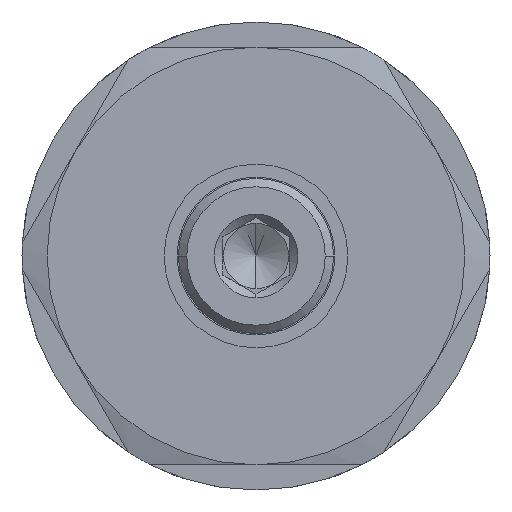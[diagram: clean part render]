
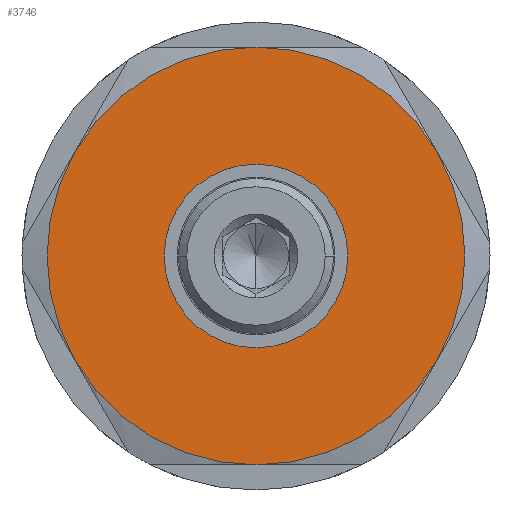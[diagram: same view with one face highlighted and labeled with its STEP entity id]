
A CAD part, left-side view. The second image highlights one B-rep face of the part: STEP entity #3746.
In plain terms, the highlighted planar face has unit normal (-1, 0, 0).
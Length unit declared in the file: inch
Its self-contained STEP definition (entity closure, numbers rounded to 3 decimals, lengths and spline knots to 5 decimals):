
#2583=CARTESIAN_POINT('',(-0.30503,0.21975,2.69497));
#2584=VERTEX_POINT('',#2583);
#2593=CARTESIAN_POINT('',(-0.30503,-0.21975,2.69497));
#2594=VERTEX_POINT('',#2593);
#2595=CARTESIAN_POINT('',(-0.30503,0.,2.69497));
#2596=DIRECTION('',(1.0,0.0,0.0));
#2597=DIRECTION('',(0.0,1.0,0.0));
#2598=AXIS2_PLACEMENT_3D('',#2595,#2596,#2597);
#2599=CIRCLE('',#2598,0.21975);
#2600=EDGE_CURVE('',#2594,#2584,#2599,.T.);
#3671=CARTESIAN_POINT('',(-0.30503,0.,2.69497));
#3672=DIRECTION('',(1.0,0.0,0.0));
#3673=DIRECTION('',(0.0,1.0,0.0));
#3674=AXIS2_PLACEMENT_3D('',#3671,#3672,#3673);
#3675=CIRCLE('',#3674,0.21975);
#3676=EDGE_CURVE('',#2584,#2594,#3675,.T.);
#3681=CARTESIAN_POINT('',(-0.30503,0.,2.69497));
#3682=DIRECTION('',(-1.0,0.0,0.0));
#3683=DIRECTION('',(0.0,0.0,1.0));
#3684=AXIS2_PLACEMENT_3D('',#3681,#3682,#3683);
#3685=PLANE('',#3684);
#3686=CARTESIAN_POINT('',(-0.30503,-0.43301,2.94497));
#3687=VERTEX_POINT('',#3686);
#3688=CARTESIAN_POINT('',(-0.30503,0.,3.19497));
#3689=VERTEX_POINT('',#3688);
#3690=CARTESIAN_POINT('',(-0.30503,0.,2.69497));
#3691=DIRECTION('',(-1.0,0.0,0.0));
#3692=DIRECTION('',(0.0,0.0,-1.0));
#3693=AXIS2_PLACEMENT_3D('',#3690,#3691,#3692);
#3694=CIRCLE('',#3693,0.5);
#3695=EDGE_CURVE('',#3687,#3689,#3694,.T.);
#3696=ORIENTED_EDGE('',*,*,#3695,.T.);
#3697=CARTESIAN_POINT('',(-0.30503,0.43301,2.94497));
#3698=VERTEX_POINT('',#3697);
#3699=CARTESIAN_POINT('',(-0.30503,0.,2.69497));
#3700=DIRECTION('',(-1.0,0.0,0.0));
#3701=DIRECTION('',(0.0,0.0,-1.0));
#3702=AXIS2_PLACEMENT_3D('',#3699,#3700,#3701);
#3703=CIRCLE('',#3702,0.5);
#3704=EDGE_CURVE('',#3689,#3698,#3703,.T.);
#3705=ORIENTED_EDGE('',*,*,#3704,.T.);
#3706=CARTESIAN_POINT('',(-0.30503,0.43301,2.44497));
#3707=VERTEX_POINT('',#3706);
#3708=CARTESIAN_POINT('',(-0.30503,0.,2.69497));
#3709=DIRECTION('',(-1.0,0.0,0.0));
#3710=DIRECTION('',(0.0,0.0,-1.0));
#3711=AXIS2_PLACEMENT_3D('',#3708,#3709,#3710);
#3712=CIRCLE('',#3711,0.5);
#3713=EDGE_CURVE('',#3698,#3707,#3712,.T.);
#3714=ORIENTED_EDGE('',*,*,#3713,.T.);
#3715=CARTESIAN_POINT('',(-0.30503,0.,2.19497));
#3716=VERTEX_POINT('',#3715);
#3717=CARTESIAN_POINT('',(-0.30503,0.,2.69497));
#3718=DIRECTION('',(-1.0,0.0,0.0));
#3719=DIRECTION('',(0.0,0.0,-1.0));
#3720=AXIS2_PLACEMENT_3D('',#3717,#3718,#3719);
#3721=CIRCLE('',#3720,0.5);
#3722=EDGE_CURVE('',#3707,#3716,#3721,.T.);
#3723=ORIENTED_EDGE('',*,*,#3722,.T.);
#3724=CARTESIAN_POINT('',(-0.30503,-0.43301,2.44497));
#3725=VERTEX_POINT('',#3724);
#3726=CARTESIAN_POINT('',(-0.30503,0.,2.69497));
#3727=DIRECTION('',(-1.0,0.0,0.0));
#3728=DIRECTION('',(0.0,0.0,-1.0));
#3729=AXIS2_PLACEMENT_3D('',#3726,#3727,#3728);
#3730=CIRCLE('',#3729,0.5);
#3731=EDGE_CURVE('',#3716,#3725,#3730,.T.);
#3732=ORIENTED_EDGE('',*,*,#3731,.T.);
#3733=CARTESIAN_POINT('',(-0.30503,0.,2.69497));
#3734=DIRECTION('',(-1.0,0.0,0.0));
#3735=DIRECTION('',(0.0,0.0,-1.0));
#3736=AXIS2_PLACEMENT_3D('',#3733,#3734,#3735);
#3737=CIRCLE('',#3736,0.5);
#3738=EDGE_CURVE('',#3725,#3687,#3737,.T.);
#3739=ORIENTED_EDGE('',*,*,#3738,.T.);
#3740=EDGE_LOOP('',(#3696,#3705,#3714,#3723,#3732,#3739));
#3741=FACE_OUTER_BOUND('',#3740,.T.);
#3742=ORIENTED_EDGE('',*,*,#3676,.T.);
#3743=ORIENTED_EDGE('',*,*,#2600,.T.);
#3744=EDGE_LOOP('',(#3742,#3743));
#3745=FACE_BOUND('',#3744,.T.);
#3746=ADVANCED_FACE('',(#3741,#3745),#3685,.T.);
